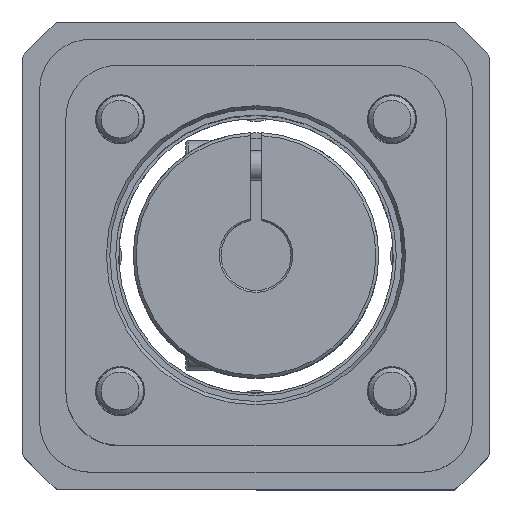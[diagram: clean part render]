
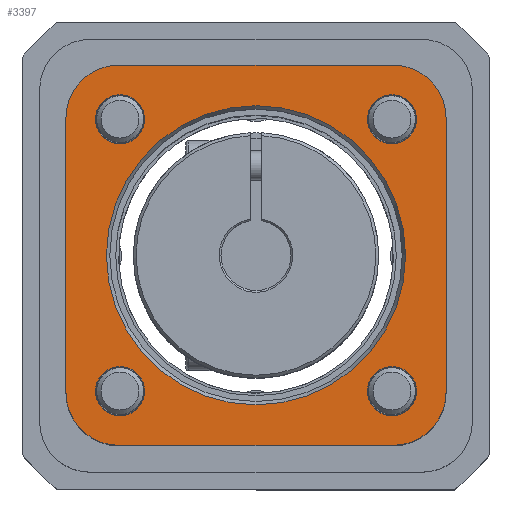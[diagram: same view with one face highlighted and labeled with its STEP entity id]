
A CAD part, top view. The second image highlights one B-rep face of the part: STEP entity #3397.
In plain terms, the highlighted planar face has unit normal (0, 0, 1).
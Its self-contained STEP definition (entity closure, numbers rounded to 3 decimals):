
#161=PLANE('',#3688);
#280=LINE('',#5346,#482);
#283=LINE('',#5354,#485);
#286=LINE('',#5362,#488);
#288=LINE('',#5368,#490);
#482=VECTOR('',#4256,47.);
#485=VECTOR('',#4265,47.);
#488=VECTOR('',#4274,47.);
#490=VECTOR('',#4282,47.);
#696=FACE_BOUND('',#1157,.T.);
#697=FACE_BOUND('',#1158,.T.);
#698=FACE_BOUND('',#1159,.T.);
#699=FACE_BOUND('',#1160,.T.);
#700=FACE_BOUND('',#1161,.T.);
#906=FACE_OUTER_BOUND('',#1156,.T.);
#1156=EDGE_LOOP('',(#2600,#2601,#2602,#2603,#2604,#2605,#2606,#2607));
#1157=EDGE_LOOP('',(#2608));
#1158=EDGE_LOOP('',(#2609));
#1159=EDGE_LOOP('',(#2610));
#1160=EDGE_LOOP('',(#2611));
#1161=EDGE_LOOP('',(#2612));
#1431=CIRCLE('',#3598,4.2);
#1436=CIRCLE('',#3606,4.2);
#1441=CIRCLE('',#3614,4.2);
#1458=CIRCLE('',#3640,4.2);
#1465=CIRCLE('',#3653,25.577);
#1476=CIRCLE('',#3677,9.);
#1477=CIRCLE('',#3680,9.);
#1478=CIRCLE('',#3683,9.);
#1479=CIRCLE('',#3686,9.);
#1630=VERTEX_POINT('',#5152);
#1639=VERTEX_POINT('',#5179);
#1648=VERTEX_POINT('',#5206);
#1664=VERTEX_POINT('',#5262);
#1668=VERTEX_POINT('',#5279);
#1687=VERTEX_POINT('',#5338);
#1688=VERTEX_POINT('',#5340);
#1689=VERTEX_POINT('',#5344);
#1690=VERTEX_POINT('',#5348);
#1691=VERTEX_POINT('',#5352);
#1692=VERTEX_POINT('',#5356);
#1693=VERTEX_POINT('',#5360);
#1694=VERTEX_POINT('',#5364);
#1958=EDGE_CURVE('',#1630,#1630,#1431,.T.);
#1967=EDGE_CURVE('',#1639,#1639,#1436,.T.);
#1976=EDGE_CURVE('',#1648,#1648,#1441,.T.);
#2001=EDGE_CURVE('',#1664,#1664,#1458,.T.);
#2008=EDGE_CURVE('',#1668,#1668,#1465,.T.);
#2036=EDGE_CURVE('',#1687,#1688,#1476,.T.);
#2039=EDGE_CURVE('',#1689,#1687,#280,.T.);
#2041=EDGE_CURVE('',#1690,#1689,#1477,.T.);
#2043=EDGE_CURVE('',#1691,#1690,#283,.T.);
#2045=EDGE_CURVE('',#1692,#1691,#1478,.T.);
#2047=EDGE_CURVE('',#1693,#1692,#286,.T.);
#2049=EDGE_CURVE('',#1694,#1693,#1479,.T.);
#2050=EDGE_CURVE('',#1688,#1694,#288,.T.);
#2600=ORIENTED_EDGE('',*,*,#2036,.F.);
#2601=ORIENTED_EDGE('',*,*,#2039,.F.);
#2602=ORIENTED_EDGE('',*,*,#2041,.F.);
#2603=ORIENTED_EDGE('',*,*,#2043,.F.);
#2604=ORIENTED_EDGE('',*,*,#2045,.F.);
#2605=ORIENTED_EDGE('',*,*,#2047,.F.);
#2606=ORIENTED_EDGE('',*,*,#2049,.F.);
#2607=ORIENTED_EDGE('',*,*,#2050,.F.);
#2608=ORIENTED_EDGE('',*,*,#1958,.T.);
#2609=ORIENTED_EDGE('',*,*,#1967,.T.);
#2610=ORIENTED_EDGE('',*,*,#1976,.T.);
#2611=ORIENTED_EDGE('',*,*,#2001,.T.);
#2612=ORIENTED_EDGE('',*,*,#2008,.T.);
#3397=ADVANCED_FACE('',(#906,#696,#697,#698,#699,#700),#161,.T.);
#3598=AXIS2_PLACEMENT_3D('',#5153,#4065,#4066);
#3606=AXIS2_PLACEMENT_3D('',#5180,#4083,#4084);
#3614=AXIS2_PLACEMENT_3D('',#5207,#4101,#4102);
#3640=AXIS2_PLACEMENT_3D('',#5263,#4159,#4160);
#3653=AXIS2_PLACEMENT_3D('',#5280,#4185,#4186);
#3677=AXIS2_PLACEMENT_3D('',#5341,#4250,#4251);
#3680=AXIS2_PLACEMENT_3D('',#5350,#4260,#4261);
#3683=AXIS2_PLACEMENT_3D('',#5358,#4269,#4270);
#3686=AXIS2_PLACEMENT_3D('',#5366,#4278,#4279);
#3688=AXIS2_PLACEMENT_3D('',#5369,#4283,#4284);
#4065=DIRECTION('center_axis',(0.,0.,-1.));
#4066=DIRECTION('ref_axis',(0.,1.,0.));
#4083=DIRECTION('center_axis',(0.,0.,-1.));
#4084=DIRECTION('ref_axis',(0.,1.,0.));
#4101=DIRECTION('center_axis',(0.,0.,-1.));
#4102=DIRECTION('ref_axis',(0.,1.,0.));
#4159=DIRECTION('center_axis',(0.,0.,-1.));
#4160=DIRECTION('ref_axis',(0.,1.,0.));
#4185=DIRECTION('center_axis',(0.,0.,-1.));
#4186=DIRECTION('ref_axis',(0.,1.,0.));
#4250=DIRECTION('center_axis',(0.,0.,-1.));
#4251=DIRECTION('ref_axis',(0.,1.,0.));
#4256=DIRECTION('',(0.,1.,0.));
#4260=DIRECTION('center_axis',(0.,0.,-1.));
#4261=DIRECTION('ref_axis',(-1.,0.,0.));
#4265=DIRECTION('',(-1.,0.,0.));
#4269=DIRECTION('center_axis',(0.,0.,-1.));
#4270=DIRECTION('ref_axis',(0.,-1.,0.));
#4274=DIRECTION('',(0.,-1.,0.));
#4278=DIRECTION('center_axis',(0.,0.,-1.));
#4279=DIRECTION('ref_axis',(1.,0.,0.));
#4282=DIRECTION('',(1.,0.,0.));
#4283=DIRECTION('center_axis',(0.,0.,1.));
#4284=DIRECTION('ref_axis',(1.,0.,0.));
#5152=CARTESIAN_POINT('',(-23.25,-19.05,66.));
#5153=CARTESIAN_POINT('Origin',(-23.25,-23.25,66.));
#5179=CARTESIAN_POINT('',(23.25,-19.05,66.));
#5180=CARTESIAN_POINT('Origin',(23.25,-23.25,66.));
#5206=CARTESIAN_POINT('',(-23.25,27.45,66.));
#5207=CARTESIAN_POINT('Origin',(-23.25,23.25,66.));
#5262=CARTESIAN_POINT('',(23.25,27.45,66.));
#5263=CARTESIAN_POINT('Origin',(23.25,23.25,66.));
#5279=CARTESIAN_POINT('',(0.,25.577,66.));
#5280=CARTESIAN_POINT('Origin',(0.,0.,66.));
#5338=CARTESIAN_POINT('',(-32.5,23.5,66.));
#5340=CARTESIAN_POINT('',(-23.5,32.5,66.));
#5341=CARTESIAN_POINT('Origin',(-23.5,23.5,66.));
#5344=CARTESIAN_POINT('',(-32.5,-23.5,66.));
#5346=CARTESIAN_POINT('',(-32.5,23.5,66.));
#5348=CARTESIAN_POINT('',(-23.5,-32.5,66.));
#5350=CARTESIAN_POINT('Origin',(-23.5,-23.5,66.));
#5352=CARTESIAN_POINT('',(23.5,-32.5,66.));
#5354=CARTESIAN_POINT('',(-23.5,-32.5,66.));
#5356=CARTESIAN_POINT('',(32.5,-23.5,66.));
#5358=CARTESIAN_POINT('Origin',(23.5,-23.5,66.));
#5360=CARTESIAN_POINT('',(32.5,23.5,66.));
#5362=CARTESIAN_POINT('',(32.5,-23.5,66.));
#5364=CARTESIAN_POINT('',(23.5,32.5,66.));
#5366=CARTESIAN_POINT('Origin',(23.5,23.5,66.));
#5368=CARTESIAN_POINT('',(23.5,32.5,66.));
#5369=CARTESIAN_POINT('Origin',(0.,0.,
66.));
